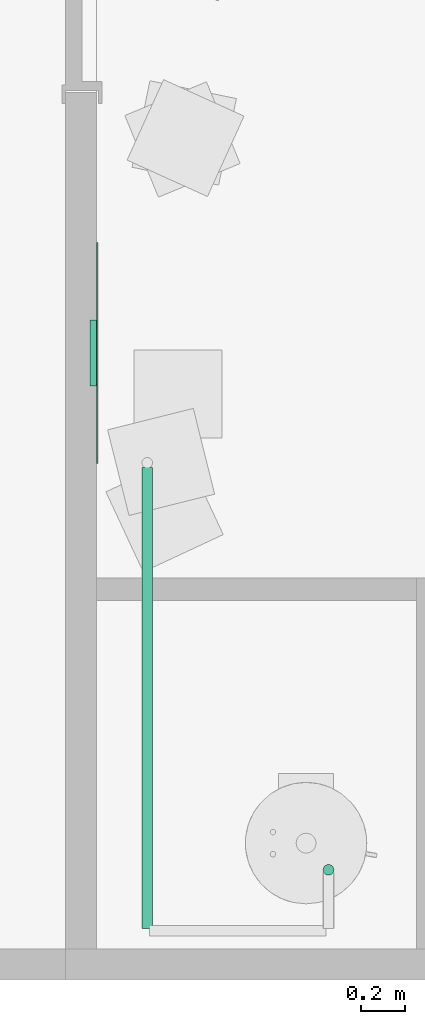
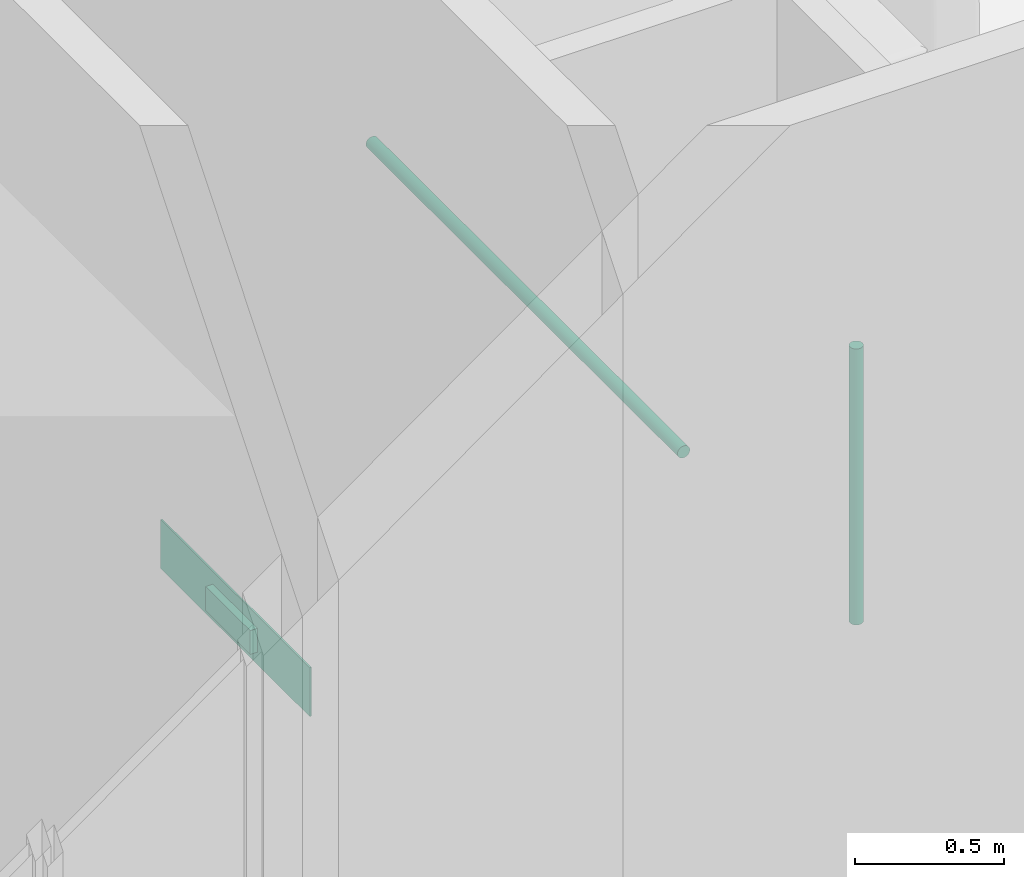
# One storey, part 32 of 71: 2 pipe segments, 1 air terminal.
"""IFC4 building model written with IfcOpenShell, lengths in centimetres."""

from ifc_helpers import new_model, entity, si_unit, converted_unit, derived_unit, direction, frame, origin, place, context, subcontext, project, spatial, arc, indexed_curve, outline, extrude, source, transform, mapped, material, constituent, constituent_set, type_object, type_shapes, element, save


model = new_model("IFC4")

# Units and contexts
model_context = context("Model", 3, precision=0.001, world=origin(), true_north=direction((6.123233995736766e-17, 1.0)))
body_context = subcontext(model_context, "Body", "Model", "MODEL_VIEW")
ifc_project = project(units=[si_unit("LENGTHUNIT", "METRE", prefix="CENTI"), si_unit("AREAUNIT", "SQUARE_METRE"), si_unit("VOLUMEUNIT", "CUBIC_METRE"), derived_unit("THERMALTRANSMITTANCEUNIT", [(si_unit("MASSUNIT", "GRAM", prefix="KILO"), 1), (si_unit("THERMODYNAMICTEMPERATUREUNIT", "KELVIN"), -1), (si_unit("TIMEUNIT", "SECOND"), -3)]), converted_unit("PLANEANGLEUNIT", "DEGREE", entity("IfcPlaneAngleMeasure", 0.017453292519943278), si_unit("PLANEANGLEUNIT", "RADIAN"), dimensions=[0, 0, 0, 0, 0, 0, 0]), derived_unit("MASSDENSITYUNIT", [(si_unit("MASSUNIT", "GRAM", prefix="KILO"), 1), (si_unit("LENGTHUNIT", "METRE"), -3)]), derived_unit("VAPORPERMEABILITYUNIT", [(si_unit("LENGTHUNIT", "METRE"), -1), (si_unit("TIMEUNIT", "SECOND"), 1)]), derived_unit("USERDEFINED", [(si_unit("MASSUNIT", "GRAM", prefix="KILO"), 1), (si_unit("TIMEUNIT", "SECOND"), -3), (si_unit("LENGTHUNIT", "METRE"), 3), (si_unit("ELECTRICCURRENTUNIT", "AMPERE"), -2)]), derived_unit("SPECIFICHEATCAPACITYUNIT", [(si_unit("THERMODYNAMICTEMPERATUREUNIT", "KELVIN"), -1), (si_unit("LENGTHUNIT", "METRE"), 2), (si_unit("TIMEUNIT", "SECOND"), -2)]), derived_unit("THERMALCONDUCTANCEUNIT", [(si_unit("MASSUNIT", "GRAM", prefix="KILO"), 1), (si_unit("THERMODYNAMICTEMPERATUREUNIT", "KELVIN"), -1), (si_unit("TIMEUNIT", "SECOND"), -3), (si_unit("LENGTHUNIT", "METRE"), 1)]), si_unit("PRESSUREUNIT", "PASCAL"), derived_unit("MODULUSOFELASTICITYUNIT", [(si_unit("MASSUNIT", "GRAM", prefix="KILO"), 1), (si_unit("LENGTHUNIT", "METRE"), -1), (si_unit("TIMEUNIT", "SECOND"), -2)]), derived_unit("THERMALEXPANSIONCOEFFICIENTUNIT", [(si_unit("THERMODYNAMICTEMPERATUREUNIT", "KELVIN"), -1)])], contexts=[model_context])

# Site, building, storey, space
site_placement = place(None, origin())
site = spatial("IfcSite", under=ifc_project, at=site_placement, Name="Default", CompositionType="ELEMENT")
building_placement = place(site_placement, origin())
building = spatial("IfcBuilding", under=site, at=building_placement, Name="IDS Escape Game Building", CompositionType="ELEMENT")
storey_placement = place(building_placement, frame((0.0, 0.0, 400.0)))
storey = spatial("IfcBuildingStorey", under=building, at=storey_placement, Name="01_First Floor", CompositionType="ELEMENT", Elevation=399.99999999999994)
space_placement = place(storey_placement, origin())
space = spatial("IfcSpace", under=storey, at=space_placement, Name="41", CompositionType="ELEMENT", PredefinedType="NOTDEFINED")

# Air terminal
ifc_material_1 = material(Name="TB_LVC_referentievlak_00_gen_BERSnl", Category="BE Default")
ifc_constituent_1 = constituent(ifc_material_1, Name="TB_LVC_referentievlak_00_gen_BERSnl", Category="BE Default", fraction=0.00014157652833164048)
ifc_material_2 = material(Name="ARC_FME.h2_staal_00_gen_BERSnl", Category="h - metaal")
ifc_constituent_2 = constituent(ifc_material_2, Name="ARC_FME.h2_staal_00_gen_BERSnl", Category="h - metaal", fraction=0.9998584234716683)
ifc_constituent_set_1 = constituent_set(constituents=[ifc_constituent_1, ifc_constituent_2])
ifc_constituent_3 = constituent(ifc_material_1, Name="BE Referentievlak", Category="BE Default", fraction=0.00014157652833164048)
ifc_constituent_4 = constituent(ifc_material_2, Name="Terminals", Category="h - metaal", fraction=0.9998584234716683)
ifc_constituent_set_2 = constituent_set(constituents=[ifc_constituent_3, ifc_constituent_4])
air_terminal_type = type_object("IfcAirTerminalType", Name="TB_57_AIR_FB_aanzuigrooster - 1 rechthoekige aansluiting - calculated flow_gen_BERSnl:Air Terminal - Exhaust", PredefinedType="GRILLE", material=ifc_constituent_set_2)
shared_shape = source(origin(), body_context, "Body", "SweptSolid", [
    extrude(outline(indexed_curve([(-0.5, -2.0290176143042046e-15), (6.8507733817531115e-16, -0.5000000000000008), (0.5, 2.0290176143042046e-15), (-5.361679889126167e-16, 0.49999999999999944)], segments=[arc(1, 2, 3), arc(3, 4, 1)], self_intersect=False)), frame((0.0, 0.0, 0.0), z_axis=(1.7453292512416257e-05, 0.0, 1.0), x_axis=(0.0, 1.0, 0.0)), (0.0, 0.0, 1.0), 0.09999999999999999),
    extrude(outline(indexed_curve([(-14.900000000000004, -4.9), (14.900000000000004, -4.9), (14.900000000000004, 4.9), (-14.900000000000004, 4.9), (-14.900000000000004, -4.9)], self_intersect=False)), frame((-4.886921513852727e-05, 0.0, -2.7999999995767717)), (0.0, 0.0, 1.0), 2.7999999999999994),
    extrude(outline(indexed_curve([(-50.0, -10.0), (50.0, -10.0), (50.0, 10.0), (-50.0, 10.0), (-50.0, -10.0)], self_intersect=False)), frame((0.0, 0.0, 0.0), z_axis=(0.0, 0.0, 1.0), x_axis=(-1.0, 0.0, 0.0)), (0.0, 0.0, 1.0), 0.6999999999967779),
])
type_shapes(air_terminal_type, [shared_shape])
air_terminal_placement = place(space_placement, frame((3697.0, 283.0, 24.0), z_axis=(1.0, 0.0, 0.0), x_axis=(0.0, 1.0, 0.0)))
element("IfcAirTerminal", 1, at=air_terminal_placement, inside=space, type_object=air_terminal_type, material=ifc_constituent_set_1, Name="TB_57_AIR_FB_aanzuigrooster - 1 rechthoekige aansluiting - calculated flow_gen_BERSnl:Air Terminal - Exhaust", ObjectType="TB_57_AIR_FB_aanzuigrooster - 1 rechthoekige aansluiting - calculated flow_gen_BERSnl:Air Terminal - Exhaust", PredefinedType="GRILLE", context=body_context, shape_type="MappedRepresentation", body=[
    mapped(shared_shape, transform((0.0, 0.0, 0.0), scale=1.0)),
])

# Pipe segments
pipe_segment_type = type_object("IfcPipeSegmentType", Name="Pipe Types:Piping Aluminum", PredefinedType="NOTDEFINED")
pipe_segment_1_placement = place(storey_placement, origin())
element("IfcPipeSegment", 2, at=pipe_segment_1_placement, inside=storey, type_object=pipe_segment_type, Name="Pipe Types:Piping Aluminum", ObjectType="Pipe Types:Piping Aluminum", PredefinedType="NOTDEFINED", context=body_context, shape_type="SweptSolid", body=[
    extrude(outline(indexed_curve([(2.412999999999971, 0.0), (1.7062486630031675, 1.7062486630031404), (0.0, 2.412999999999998), (-1.7062486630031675, 1.7062486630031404), (-2.412999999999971, 6.767919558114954e-15), (-1.7062486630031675, -1.7062486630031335), (0.0, -2.412999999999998), (1.7062486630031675, -1.706248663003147)], segments=[arc(1, 2, 3), arc(3, 4, 5), arc(5, 6, 7), arc(7, 8, 1)], self_intersect=False)), frame((3802.150000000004, 48.90000000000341, 128.0), z_axis=(0.0, 0.0, 1.0), x_axis=(-1.0, 0.0, 0.0)), (0.0, 0.0, 1.0), 112.90000000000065),
])
pipe_segment_2_placement = place(storey_placement, origin())
element("IfcPipeSegment", 3, at=pipe_segment_2_placement, inside=storey, type_object=pipe_segment_type, Name="Pipe Types:Piping Aluminum", ObjectType="Pipe Types:Piping Aluminum", PredefinedType="NOTDEFINED", context=body_context, shape_type="SweptSolid", body=[
    extrude(outline(indexed_curve([(2.412999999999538, 0.0), (1.7062486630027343, 1.7062486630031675), (-4.331468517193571e-13, 2.412999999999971), (-1.7062486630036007, 1.7062486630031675), (-2.4130000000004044, 0.0), (-1.7062486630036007, -1.7062486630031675), (-4.331468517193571e-13, -2.412999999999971), (1.7062486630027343, -1.7062486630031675)], segments=[arc(1, 2, 3), arc(3, 4, 5), arc(5, 6, 7), arc(7, 8, 1)], self_intersect=False)), frame((3720.0467168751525, 22.364827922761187, 242.0), z_axis=(0.0, 1.0, 0.0), x_axis=(1.0, 0.0, 0.0)), (0.0, 0.0, 1.0), 208.80000000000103),
])

save(model, "model.ifc")
